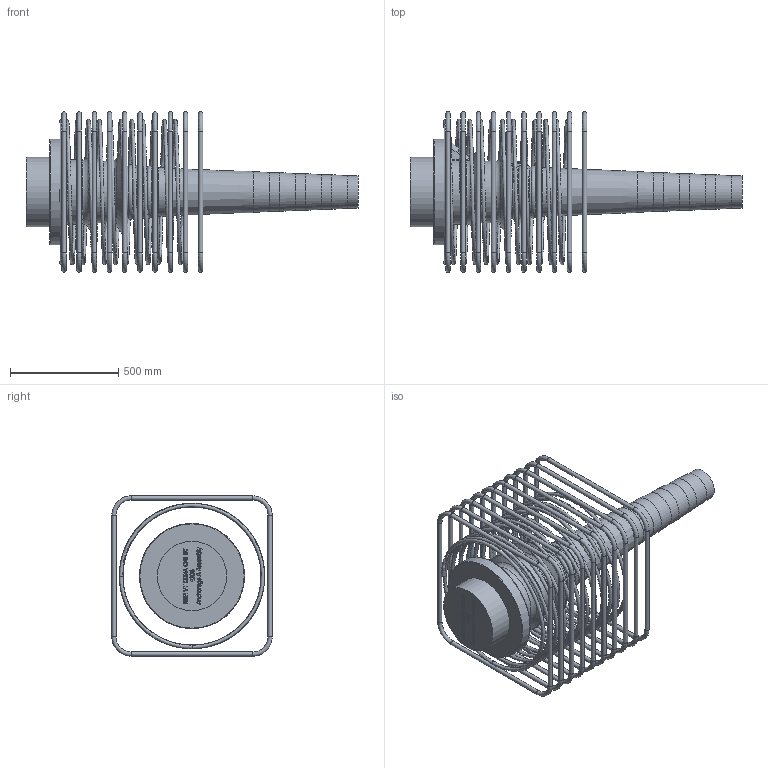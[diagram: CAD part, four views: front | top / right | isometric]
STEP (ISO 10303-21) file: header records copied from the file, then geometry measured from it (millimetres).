
FILE_DESCRIPTION(/* description */ (''),/* implementation_level */ '2;1');
FILE_NAME(/* name */ 'Z:\04 Publications\05 Give-out\BBR\6_3D_Models\BBR VT CONA CMI\BBR VT CONA CMI BT\04306\BBR VT CONA CMI BT 4306_Anchorage A Assembly_CS-34,28.stp',/* time_stamp */ '2017-05-05T11:00:59+02:00',/* author */ ('IP'),/* organization */ (''),/* preprocessor_version */ 'ST-DEVELOPER v16.1',/* originating_system */ 'Autodesk Inventor 2016',/* authorisation */ '');
FILE_SCHEMA (('AUTOMOTIVE_DESIGN { 1 0 10303 214 3 1 1 }'));
Length unit declared in the file: millimetre
Products named in the file (1): BBR VT CONA CMI BT 4306_Anchorage A Assembly_CS-34,28
Bounding box: 1530.46 x 740 x 740 mm (x, y, z)
Volume: 86344931.7 mm3; surface area: 4582909.2 mm2
Topology: 12 solids, 12 shells, 795 faces, 2053 edges, 1319 vertices
Faces by surface type: plane 331, bspline 315, torus 76, cylinder 60, cone 11, sphere 2
Full cylindrical faces by diameter (mm): 20 x40, 35 x1, 57 x1, 149 x1, 159 x1, 169 x1, 179 x1, 282 x1, 320 x1, 377 x1, 390 x1, 485 x1
Entity records: 31773 total; most frequent: CARTESIAN_POINT 14183, ORIENTED_EDGE 3836, DIRECTION 2420, EDGE_CURVE 1918, VERTEX_POINT 1312, LINE 1090, VECTOR 1090, EDGE_LOOP 982
